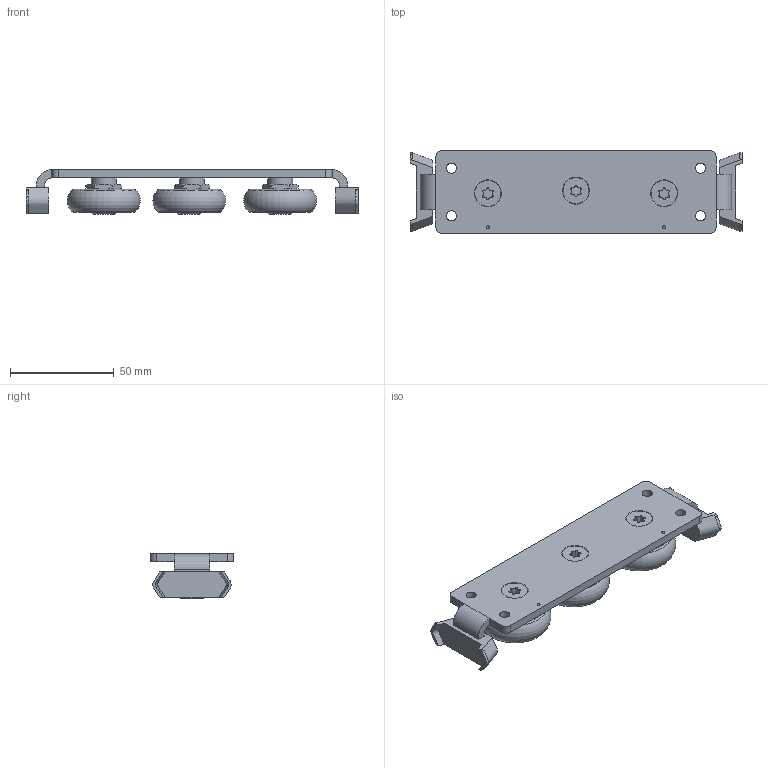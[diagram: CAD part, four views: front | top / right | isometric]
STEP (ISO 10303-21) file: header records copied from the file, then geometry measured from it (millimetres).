
FILE_DESCRIPTION(/* description */ ('STEP AP214'),/* implementation_level */ '2;1');
FILE_NAME(/* name */ 'Stainless Steel Cam Roller Carriage GN 2494-45-K3-X',/* time_stamp */ '2023-06-26T11:53:55+02:00',/* author */ ('License CC BY-ND 4.0'),/* organization */ ('CADENAS'),/* preprocessor_version */ 'ST-DEVELOPER v19.3',/* originating_system */ 'PARTsolutions',/* authorisation */ ' ');
FILE_SCHEMA (('AUTOMOTIVE_DESIGN {1 0 10303 214 3 1 1}'));
Length unit declared in the file: millimetre
Products named in the file (1): Stainless Steel Cam Roller Carriage GN 2494-45-K3-X
Bounding box: 160 x 40 x 21.5 mm (x, y, z)
Volume: 59794.5 mm3; surface area: 24963.5 mm2
Topology: 1 solids, 1 shells, 230 faces, 558 edges, 364 vertices
Faces by surface type: plane 98, cylinder 71, cone 44, torus 9, bspline 8
Full cylindrical faces by diameter (mm): 4.917 x4, 12 x3, 17.9 x6, 26.3 x6
Entity records: 8440 total; most frequent: CARTESIAN_POINT 1559, DIRECTION 1080, ORIENTED_EDGE 1036, EDGE_CURVE 518, AXIS2_PLACEMENT_3D 431, VERTEX_POINT 362, FACE_BOUND 310, EDGE_LOOP 308
